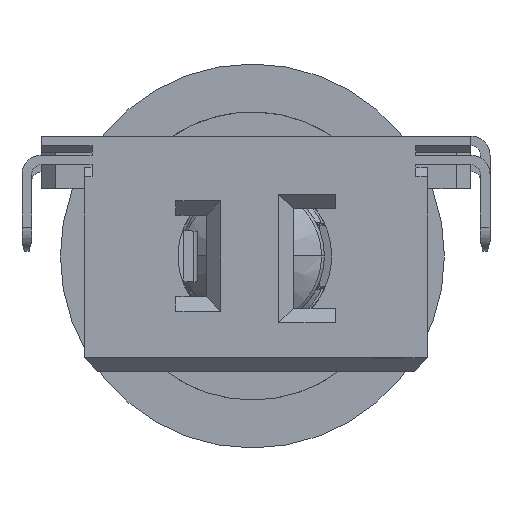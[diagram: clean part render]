
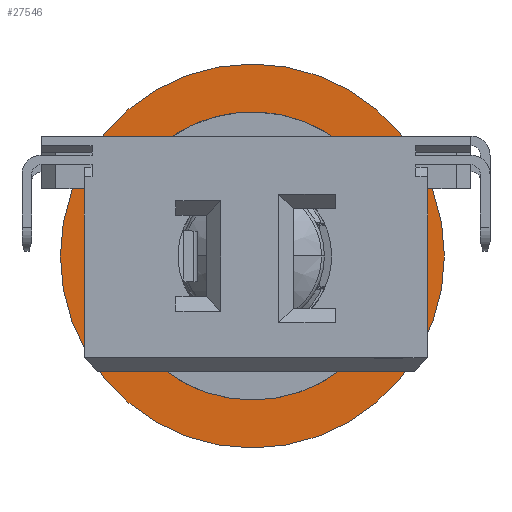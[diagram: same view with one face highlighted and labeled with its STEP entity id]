
A CAD part, front view. The second image highlights one B-rep face of the part: STEP entity #27546.
In plain terms, the highlighted planar face has unit normal (0, -1, 0) as drawn and (0, 0, 1) by its records, which use the part's own axes.
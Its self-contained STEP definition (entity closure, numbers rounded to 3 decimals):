
#26930=CARTESIAN_POINT('',(0.,2.5,-3.94));
#26931=DIRECTION('',(0.,0.,1.));
#26932=DIRECTION('',(1.,0.,0.));
#26933=AXIS2_PLACEMENT_3D('',#26930,#26931,#26932);
#26935=CARTESIAN_POINT('',(0.,2.5,-3.94));
#26936=DIRECTION('',(0.,0.,1.));
#26937=DIRECTION('',(-1.,0.,0.));
#26938=AXIS2_PLACEMENT_3D('',#26935,#26936,#26937);
#26940=CARTESIAN_POINT('',(0.,2.5,-3.94));
#26941=DIRECTION('',(0.,0.,-1.));
#26942=DIRECTION('',(-1.,0.,0.));
#26943=AXIS2_PLACEMENT_3D('',#26940,#26941,#26942);
#26945=CARTESIAN_POINT('',(0.,2.5,-3.94));
#26946=DIRECTION('',(0.,0.,-1.));
#26947=DIRECTION('',(1.,0.,0.));
#26948=AXIS2_PLACEMENT_3D('',#26945,#26946,#26947);
#27054=CARTESIAN_POINT('',(-1.75,2.5,-3.94));
#27056=VERTEX_POINT('',#27054);
#27068=CARTESIAN_POINT('',(4.,2.5,-3.94));
#27069=CARTESIAN_POINT('',(-4.,2.5,-3.94));
#27070=VERTEX_POINT('',#27068);
#27071=VERTEX_POINT('',#27069);
#27094=CARTESIAN_POINT('',(1.75,2.5,-3.94));
#27095=VERTEX_POINT('',#27094);
#27531=CARTESIAN_POINT('',(0.,2.5,-3.94));
#27532=DIRECTION('',(0.,0.,1.));
#27533=DIRECTION('',(1.,0.,0.));
#27534=AXIS2_PLACEMENT_3D('',#27531,#27532,#27533);
#27535=PLANE('',#27534);
#27537=ORIENTED_EDGE('',*,*,#27536,.F.);
#27539=ORIENTED_EDGE('',*,*,#27538,.F.);
#27540=EDGE_LOOP('',(#27537,#27539));
#27541=FACE_OUTER_BOUND('',#27540,.F.);
#27542=ORIENTED_EDGE('',*,*,#27511,.F.);
#27543=ORIENTED_EDGE('',*,*,#27524,.F.);
#27544=EDGE_LOOP('',(#27542,#27543));
#27545=FACE_BOUND('',#27544,.F.);
#26934=CIRCLE('',#26933,4.);
#26939=CIRCLE('',#26938,4.);
#26944=CIRCLE('',#26943,1.75);
#26949=CIRCLE('',#26948,1.75);
#27511=EDGE_CURVE('',#27056,#27095,#26944,.T.);
#27524=EDGE_CURVE('',#27095,#27056,#26949,.T.);
#27536=EDGE_CURVE('',#27070,#27071,#26934,.T.);
#27538=EDGE_CURVE('',#27071,#27070,#26939,.T.);
#27546=ADVANCED_FACE('',(#27541,#27545),#27535,.T.);
